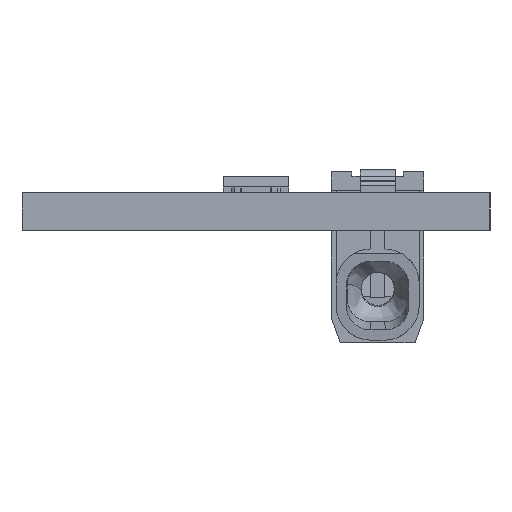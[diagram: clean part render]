
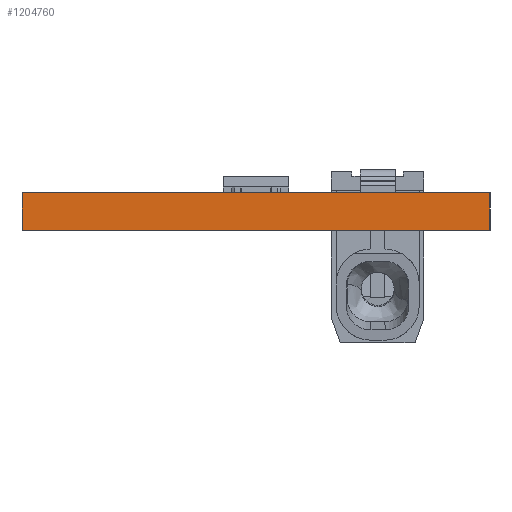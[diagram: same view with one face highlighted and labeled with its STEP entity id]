
A CAD part, left-side view. The second image highlights one B-rep face of the part: STEP entity #1204760.
In plain terms, the highlighted planar face has unit normal (-1, 0, 0).
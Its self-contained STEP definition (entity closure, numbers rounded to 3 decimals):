
#1188750=CARTESIAN_POINT('',(0.,0.,0.));
#1188760=DIRECTION('',(0.,1.,0.));
#1188770=VECTOR('',#1188760,0.039);
#1188780=LINE('',#1188750,#1188770);
#1188790=CARTESIAN_POINT('',(0.,0.,0.));
#1188800=VERTEX_POINT('',#1188790);
#1188810=CARTESIAN_POINT('',(0.,20.,0.));
#1188820=VERTEX_POINT('',#1188810);
#1188830=EDGE_CURVE('',#1188800,#1188820,#1188780,.T.);
#1194480=CARTESIAN_POINT('',(0.,0.,-1.6));
#1194490=VERTEX_POINT('',#1194480);
#1195960=CARTESIAN_POINT('',(0.,20.,-1.6));
#1195970=VERTEX_POINT('',#1195960);
#1196000=CARTESIAN_POINT('',(0.,0.,-1.6));
#1196010=DIRECTION('',(0.,1.,0.));
#1196020=VECTOR('',#1196010,0.039);
#1196030=LINE('',#1196000,#1196020);
#1196040=EDGE_CURVE('',#1194490,#1195970,#1196030,.T.);
#1200170=CARTESIAN_POINT('',(0.,0.,0.));
#1200180=DIRECTION('',(0.,0.,-1.));
#1200190=VECTOR('',#1200180,1.);
#1200200=LINE('',#1200170,#1200190);
#1200210=EDGE_CURVE('',#1188800,#1194490,#1200200,.T.);
#1204470=CARTESIAN_POINT('',(0.,20.,0.));
#1204480=DIRECTION('',(0.,0.,-1.));
#1204490=VECTOR('',#1204480,1.);
#1204500=LINE('',#1204470,#1204490);
#1204510=EDGE_CURVE('',#1188820,#1195970,#1204500,.T.);
#1204650=CARTESIAN_POINT('',(0.,0.,0.));
#1204660=DIRECTION('',(1.,0.,0.));
#1204670=DIRECTION('',(0.,-1.,0.));
#1204680=AXIS2_PLACEMENT_3D('',#1204650,#1204660,#1204670);
#1204690=PLANE('',#1204680);
#1204700=ORIENTED_EDGE('',*,*,#1188830,.T.);
#1204710=ORIENTED_EDGE('',*,*,#1200210,.F.);
#1204720=ORIENTED_EDGE('',*,*,#1196040,.F.);
#1204730=ORIENTED_EDGE('',*,*,#1204510,.T.);
#1204740=EDGE_LOOP('',(#1204730,#1204720,#1204710,#1204700));
#1204750=FACE_OUTER_BOUND('',#1204740,.T.);
#1204760=ADVANCED_FACE('',(#1204750),#1204690,.F.);
